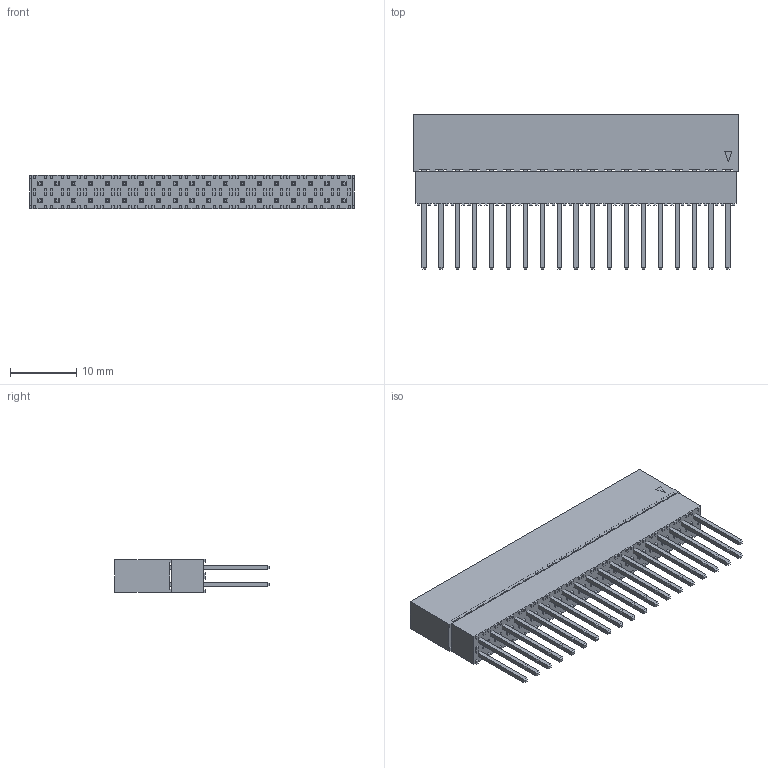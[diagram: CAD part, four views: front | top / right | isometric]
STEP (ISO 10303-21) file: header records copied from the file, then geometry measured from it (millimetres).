
FILE_DESCRIPTION (( 'STEP AP214' ), '1' );
FILE_NAME ('ESQ-119-24-T-D.STEP', '2022-12-09T13:32:20', ( '' ), ( '' ), 'SwSTEP 2.0', 'SolidWorks 2022', '' );
FILE_SCHEMA (( 'AUTOMOTIVE_DESIGN' ));
Length unit declared in the file: millimetre
Products named in the file (5): New Marking; ESQ-119-24-T-D_pins; ESQ-119-24-T-D; ESQ-119-24-G-D-LL_bpins; ESQ-119-24-T-D_socket
Assembly tree (4 placements, depth 2):
  ESQ-119-24-T-D
    ESQ-119-24-G-D-LL_bpins
    ESQ-119-24-T-D_pins
    ESQ-119-24-T-D_socket
    New Marking
Bounding box: 48.77 x 23.24 x 5.08 mm (x, y, z)
Volume: 3311.3 mm3; surface area: 5572.7 mm2
Topology: 4 solids, 4 shells, 1699 faces, 4465 edges, 2926 vertices
Faces by surface type: plane 1585, cylinder 114
Entity records: 51449 total; most frequent: CARTESIAN_POINT 9097, ORIENTED_EDGE 8930, DIRECTION 8105, EDGE_CURVE 4465, LINE 4237, VECTOR 4237, VERTEX_POINT 2926, AXIS2_PLACEMENT_3D 1934
